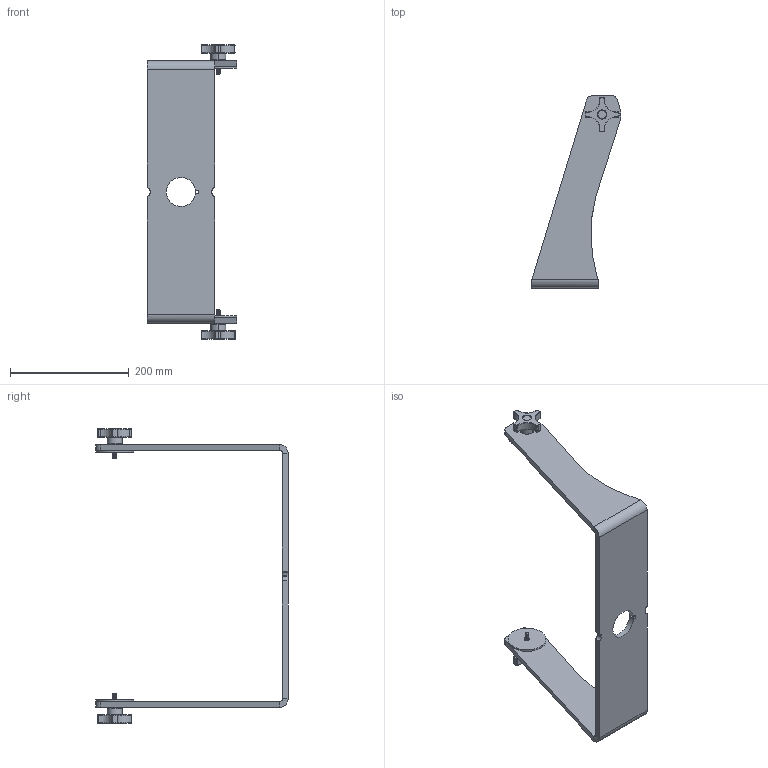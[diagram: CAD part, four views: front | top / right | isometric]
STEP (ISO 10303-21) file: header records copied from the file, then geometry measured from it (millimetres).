
FILE_DESCRIPTION (( 'STEP AP214' ), '1' );
FILE_NAME ('Yoke for 15 and 17 inch Universal Mount Monitor, YK1517.STEP', '2017-07-18T14:03:28', ( '' ), ( '' ), 'SwSTEP 2.0', 'SolidWorks 2017', '' );
FILE_SCHEMA (( 'AUTOMOTIVE_DESIGN' ));
Length unit declared in the file: inch
Products named in the file (5): All Yoke Configurations, YKxx_YK1517; Yoke for 15 and 17 inch Universal Mount Monitor, YK1517; Knob, 30053; Rubber Washer, 10177; Bushing, 30500
Assembly tree (7 placements, depth 2):
  Yoke for 15 and 17 inch Universal Mount Monitor, YK1517
    All Yoke Configurations, YKxx_YK1517
    Bushing, 30500  x2
    Rubber Washer, 10177  x2
    Knob, 30053  x2
Bounding box: 151.52 x 323.55 x 495.96 mm (x, y, z)
Volume: 954538.2 mm3; surface area: 238824.7 mm2
Topology: 7 solids, 7 shells, 567 faces, 1225 edges, 664 vertices
Faces by surface type: cylinder 257, cone 176, torus 48, plane 42, sphere 40, bspline 4
Entity records: 11012 total; most frequent: CARTESIAN_POINT 4126, DIRECTION 1480, ORIENTED_EDGE 1334, EDGE_CURVE 667, AXIS2_PLACEMENT_3D 601, VERTEX_POINT 369, EDGE_LOOP 324, ADVANCED_FACE 310
